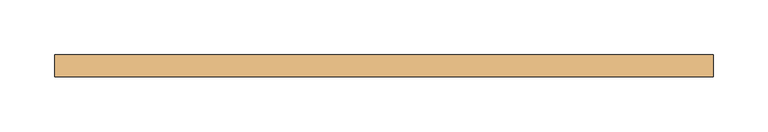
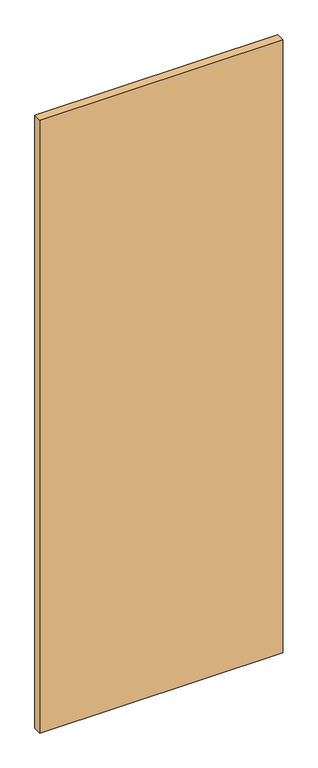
"""IFC4 building model written with IfcOpenShell, lengths in millimetres: door geometry, M_Descarga simples1 : 60X160 (vest. fem)."""

from ifc_helpers import new_model, si_unit, origin, origin_with_axes, place, context, project, spatial, polyline, outline, extrude, source, transform, mapped, element, save


def door_c94bcfbf(model_context):
    return source(origin(), model_context, "Body", "SweptSolid", [
        extrude(outline(polyline([(300.0, -10.0), (-300.0, -10.0), (-300.0, 10.0), (300.0, 10.0), (300.0, -10.0)])), origin_with_axes(), (0.0, 0.0, 1.0), 1600.0),
    ])


if __name__ == "__main__":
    model = new_model("IFC4")
    model_context = context("Model", 3, world=origin())
    ifc_project = project(units=[si_unit("LENGTHUNIT", "METRE", prefix="MILLI")], contexts=[model_context])
    site = spatial("IfcSite", under=ifc_project)
    building = spatial("IfcBuilding", under=site)
    placement = place(None, origin())
    door_shape = door_c94bcfbf(model_context)
    element("IfcDoor", 1, ObjectType="M_Descarga simples1 : 60X160 (vest. fem)", at=placement, inside=building, context=model_context, shape_type="MappedRepresentation", body=[
        mapped(door_shape, transform((0.0, 0.0, 0.0), x_axis=(1.0, 0.0, 0.0), y_axis=(0.0, 1.0, 0.0), z_axis=(0.0, 0.0, 1.0))),
    ])
    save(model, "model.ifc")
